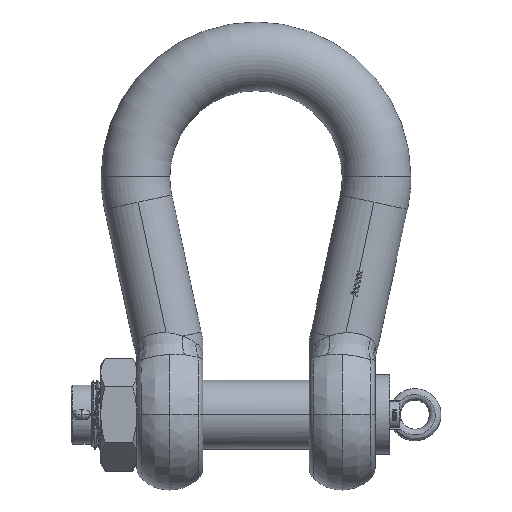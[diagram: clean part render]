
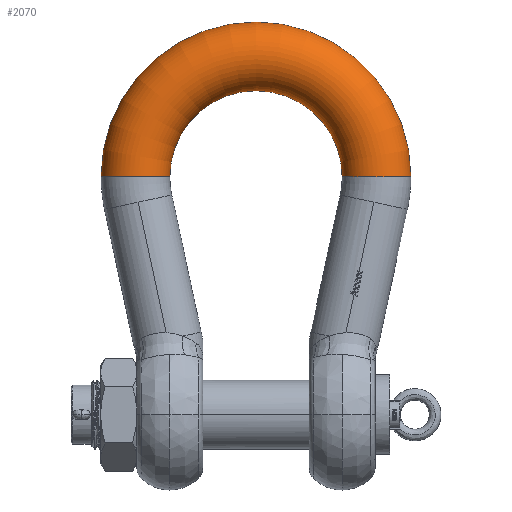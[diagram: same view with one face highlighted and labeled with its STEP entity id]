
A CAD part, front view. The second image highlights one B-rep face of the part: STEP entity #2070.
In plain terms, the highlighted toroidal (fillet/blend) face has major radius 166.5 mm and minor radius 47.495 mm.
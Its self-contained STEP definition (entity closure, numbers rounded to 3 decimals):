
#2070=ADVANCED_FACE('',(#4930),#4931,.T.);
#4930=FACE_OUTER_BOUND('',#10647,.T.);
#4931=TOROIDAL_SURFACE('',#10648,166.5,47.495);
#10647=EDGE_LOOP('',(#32839,#32840,#32841,#32842));
#10648=AXIS2_PLACEMENT_3D('',#32843,#32844,#32845);
#32839=ORIENTED_EDGE('',*,*,#42864,.T.);
#32840=ORIENTED_EDGE('',*,*,#42865,.F.);
#32841=ORIENTED_EDGE('',*,*,#42866,.T.);
#32842=ORIENTED_EDGE('',*,*,#42699,.F.);
#32843=CARTESIAN_POINT('',(0.0,0.0,328.5));
#32844=DIRECTION('',(0.0,-1.0,0.0));
#32845=DIRECTION('',(1.0,0.0,0.0));
#42699=EDGE_CURVE('',#49073,#49072,#49075,.F.);
#42864=EDGE_CURVE('',#49073,#49300,#49301,.F.);
#42865=EDGE_CURVE('',#49302,#49300,#49303,.T.);
#42866=EDGE_CURVE('',#49302,#49072,#49304,.T.);
#49072=VERTEX_POINT('',#61657);
#49073=VERTEX_POINT('',#61658);
#49075=CIRCLE('',#61660,47.495);
#49300=VERTEX_POINT('',#62282);
#49301=CIRCLE('',#62283,119.005);
#49302=VERTEX_POINT('',#62284);
#49303=B_SPLINE_CURVE_WITH_KNOTS('',5,(#62285,#62286,#62287,#62288,#62289,#62290,#62291,#62292,#62293,#62294,#62295,#62296,#62297,#62298,#62299,#62300,#62301,#62302,#62303,#62304,#62305,#62306,#62307,#62308),.UNSPECIFIED.,.F.,.F.,(6,3,3,3,3,3,3,6),(0.0,31.035,62.07,93.106,124.141,155.176,186.211,211.013),.UNSPECIFIED.);
#49304=CIRCLE('',#62309,213.995);
#61657=CARTESIAN_POINT('',(-213.995,0.,328.5));
#61658=CARTESIAN_POINT('',(-119.005,0.,328.5));
#61660=AXIS2_PLACEMENT_3D('',#89584,#89585,#89586);
#62282=CARTESIAN_POINT('',(119.005,0.,328.5));
#62283=AXIS2_PLACEMENT_3D('',#89603,#89604,#89605);
#62284=CARTESIAN_POINT('',(213.995,0.0,328.5));
#62285=CARTESIAN_POINT('',(213.995,0.0,328.5));
#62286=CARTESIAN_POINT('',(213.995,-4.389,328.5));
#62287=CARTESIAN_POINT('',(213.488,-8.778,328.5));
#62288=CARTESIAN_POINT('',(212.474,-13.089,328.5));
#62289=CARTESIAN_POINT('',(209.468,-21.399,328.5));
#62290=CARTESIAN_POINT('',(204.648,-28.804,328.5));
#62291=CARTESIAN_POINT('',(201.818,-32.211,328.5));
#62292=CARTESIAN_POINT('',(195.423,-38.31,328.5));
#62293=CARTESIAN_POINT('',(187.807,-42.79,328.5));
#62294=CARTESIAN_POINT('',(183.755,-44.578,328.5));
#62295=CARTESIAN_POINT('',(175.312,-47.186,328.5));
#62296=CARTESIAN_POINT('',(166.497,-47.801,328.5));
#62297=CARTESIAN_POINT('',(162.073,-47.595,328.5));
#62298=CARTESIAN_POINT('',(153.353,-46.167,328.5));
#62299=CARTESIAN_POINT('',(145.188,-42.787,328.5));
#62300=CARTESIAN_POINT('',(141.32,-40.631,328.5));
#62301=CARTESIAN_POINT('',(134.151,-35.465,328.5));
#62302=CARTESIAN_POINT('',(128.349,-28.8,328.5));
#62303=CARTESIAN_POINT('',(125.847,-25.145,328.5));
#62304=CARTESIAN_POINT('',(122.147,-18.11,328.5));
#62305=CARTESIAN_POINT('',(119.976,-10.483,328.5));
#62306=CARTESIAN_POINT('',(119.329,-7.015,328.5));
#62307=CARTESIAN_POINT('',(119.005,-3.508,328.5));
#62308=CARTESIAN_POINT('',(119.005,0.,328.5));
#62309=AXIS2_PLACEMENT_3D('',#89606,#89607,#89608);
#89584=CARTESIAN_POINT('',(-166.5,0.0,328.5));
#89585=DIRECTION('',(0.,0.0,1.0));
#89586=DIRECTION('',(-1.0,0.0,0.));
#89603=CARTESIAN_POINT('',(0.0,0.,328.5));
#89604=DIRECTION('',(0.0,-1.0,0.0));
#89605=DIRECTION('',(-1.0,0.0,0.0));
#89606=CARTESIAN_POINT('',(0.0,0.,328.5));
#89607=DIRECTION('',(0.0,-1.0,0.0));
#89608=DIRECTION('',(-1.0,0.0,0.0));
